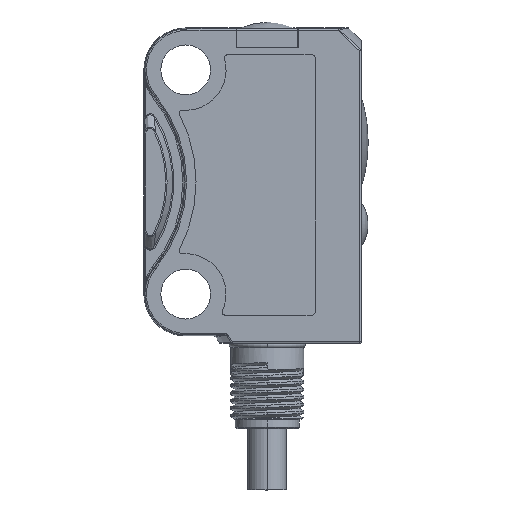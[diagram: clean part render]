
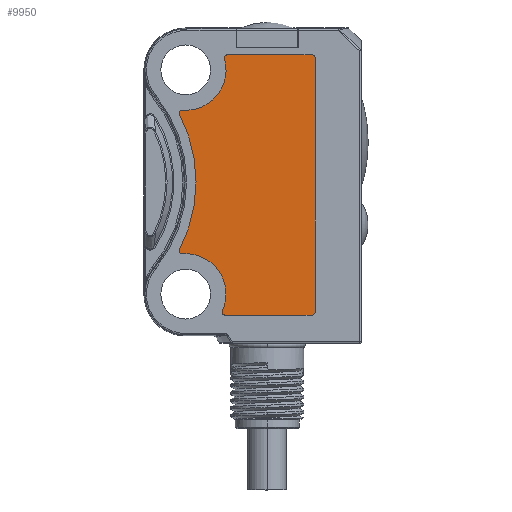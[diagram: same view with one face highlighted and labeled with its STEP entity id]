
A CAD part, left-side view. The second image highlights one B-rep face of the part: STEP entity #9950.
In plain terms, the highlighted planar face has unit normal (-1, 0, 0) as drawn and (0, 1, 0) by its records, which use the part's own axes.
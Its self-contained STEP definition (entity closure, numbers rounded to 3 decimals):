
#9755=CARTESIAN_POINT('',(57.038,14.48,19.143));
#9756=VERTEX_POINT('',#9755);
#9757=CARTESIAN_POINT('',(56.838,14.48,19.343));
#9758=VERTEX_POINT('',#9757);
#9759=CARTESIAN_POINT('',(57.038,14.48,19.343));
#9760=DIRECTION('',(0.0,1.,0.0));
#9761=DIRECTION('',(-0.707,0.0,-0.707));
#9762=AXIS2_PLACEMENT_3D('',#9759,#9760,#9761);
#9763=CIRCLE('',#9762,0.2);
#9764=EDGE_CURVE('',#9756,#9758,#9763,.T.);
#9798=CARTESIAN_POINT('',(74.038,14.48,19.143));
#9799=VERTEX_POINT('',#9798);
#9800=CARTESIAN_POINT('',(74.038,14.48,19.143));
#9801=DIRECTION('',(-1.0,0.0,0.0));
#9802=VECTOR('',#9801,17.);
#9803=LINE('',#9800,#9802);
#9804=EDGE_CURVE('',#9799,#9756,#9803,.T.);
#9828=CARTESIAN_POINT('',(56.838,14.48,25.006));
#9829=VERTEX_POINT('',#9828);
#9830=CARTESIAN_POINT('',(57.093,14.48,25.198));
#9831=VERTEX_POINT('',#9830);
#9832=CARTESIAN_POINT('',(57.038,14.48,25.006));
#9833=DIRECTION('',(0.0,1.,0.0));
#9834=DIRECTION('',(-0.602,0.0,0.799));
#9835=AXIS2_PLACEMENT_3D('',#9832,#9833,#9834);
#9836=CIRCLE('',#9835,0.2);
#9837=EDGE_CURVE('',#9829,#9831,#9836,.T.);
#9865=CARTESIAN_POINT('',(65.56,14.48,23.183));
#9866=DIRECTION('',(0.0,1.0,0.0));
#9867=DIRECTION('',(0.0,0.0,1.0));
#9868=AXIS2_PLACEMENT_3D('',#9865,#9866,#9867);
#9869=PLANE('',#9868);
#9870=ORIENTED_EDGE('',*,*,#9764,.T.);
#9871=CARTESIAN_POINT('',(56.838,14.48,19.343));
#9872=DIRECTION('',(0.0,0.0,1.0));
#9873=VECTOR('',#9872,5.663);
#9874=LINE('',#9871,#9873);
#9875=EDGE_CURVE('',#9758,#9829,#9874,.T.);
#9876=ORIENTED_EDGE('',*,*,#9875,.T.);
#9877=ORIENTED_EDGE('',*,*,#9837,.T.);
#9878=CARTESIAN_POINT('',(60.529,14.48,28.013));
#9879=VERTEX_POINT('',#9878);
#9880=CARTESIAN_POINT('',(57.838,14.48,27.793));
#9881=DIRECTION('',(0.0,-1.0,0.0));
#9882=DIRECTION('',(0.0,0.0,1.0));
#9883=AXIS2_PLACEMENT_3D('',#9880,#9881,#9882);
#9884=CIRCLE('',#9883,2.7);
#9885=EDGE_CURVE('',#9831,#9879,#9884,.T.);
#9886=ORIENTED_EDGE('',*,*,#9885,.T.);
#9887=CARTESIAN_POINT('',(60.82,14.48,28.206));
#9888=VERTEX_POINT('',#9887);
#9889=CARTESIAN_POINT('',(60.728,14.48,28.029));
#9890=DIRECTION('',(0.0,1.0,0.0));
#9891=DIRECTION('',(-0.553,0.0,0.833));
#9892=AXIS2_PLACEMENT_3D('',#9889,#9890,#9891);
#9893=CIRCLE('',#9892,0.2);
#9894=EDGE_CURVE('',#9879,#9888,#9893,.T.);
#9895=ORIENTED_EDGE('',*,*,#9894,.T.);
#9896=CARTESIAN_POINT('',(69.855,14.48,28.206));
#9897=VERTEX_POINT('',#9896);
#9898=CARTESIAN_POINT('',(65.338,14.48,36.903));
#9899=DIRECTION('',(0.0,-1.0,0.0));
#9900=DIRECTION('',(0.0,0.0,1.0));
#9901=AXIS2_PLACEMENT_3D('',#9898,#9899,#9900);
#9902=CIRCLE('',#9901,9.8);
#9903=EDGE_CURVE('',#9888,#9897,#9902,.T.);
#9904=ORIENTED_EDGE('',*,*,#9903,.T.);
#9905=CARTESIAN_POINT('',(70.147,14.48,28.013));
#9906=VERTEX_POINT('',#9905);
#9907=CARTESIAN_POINT('',(69.947,14.48,28.029));
#9908=DIRECTION('',(0.0,1.,0.0));
#9909=DIRECTION('',(0.553,0.0,0.833));
#9910=AXIS2_PLACEMENT_3D('',#9907,#9908,#9909);
#9911=CIRCLE('',#9910,0.2);
#9912=EDGE_CURVE('',#9897,#9906,#9911,.T.);
#9913=ORIENTED_EDGE('',*,*,#9912,.T.);
#9914=CARTESIAN_POINT('',(73.955,14.48,25.335));
#9915=VERTEX_POINT('',#9914);
#9916=CARTESIAN_POINT('',(72.838,14.48,27.793));
#9917=DIRECTION('',(0.0,-1.0,0.0));
#9918=DIRECTION('',(0.0,0.0,1.0));
#9919=AXIS2_PLACEMENT_3D('',#9916,#9917,#9918);
#9920=CIRCLE('',#9919,2.7);
#9921=EDGE_CURVE('',#9906,#9915,#9920,.T.);
#9922=ORIENTED_EDGE('',*,*,#9921,.T.);
#9923=CARTESIAN_POINT('',(74.238,14.48,25.153));
#9924=VERTEX_POINT('',#9923);
#9925=CARTESIAN_POINT('',(74.038,14.48,25.153));
#9926=DIRECTION('',(0.0,1.,0.0));
#9927=DIRECTION('',(0.541,0.0,0.841));
#9928=AXIS2_PLACEMENT_3D('',#9925,#9926,#9927);
#9929=CIRCLE('',#9928,0.2);
#9930=EDGE_CURVE('',#9915,#9924,#9929,.T.);
#9931=ORIENTED_EDGE('',*,*,#9930,.T.);
#9932=CARTESIAN_POINT('',(74.238,14.48,19.343));
#9933=VERTEX_POINT('',#9932);
#9934=CARTESIAN_POINT('',(74.238,14.48,25.153));
#9935=DIRECTION('',(0.0,0.0,-1.0));
#9936=VECTOR('',#9935,5.81);
#9937=LINE('',#9934,#9936);
#9938=EDGE_CURVE('',#9924,#9933,#9937,.T.);
#9939=ORIENTED_EDGE('',*,*,#9938,.T.);
#9940=CARTESIAN_POINT('',(74.038,14.48,19.343));
#9941=DIRECTION('',(0.0,1.,0.0));
#9942=DIRECTION('',(0.707,0.0,-0.707));
#9943=AXIS2_PLACEMENT_3D('',#9940,#9941,#9942);
#9944=CIRCLE('',#9943,0.2);
#9945=EDGE_CURVE('',#9933,#9799,#9944,.T.);
#9946=ORIENTED_EDGE('',*,*,#9945,.T.);
#9947=ORIENTED_EDGE('',*,*,#9804,.T.);
#9948=EDGE_LOOP('',(#9870,#9876,#9877,#9886,#9895,#9904,#9913,#9922,#9931,#9939,#9946,#9947));
#9949=FACE_OUTER_BOUND('',#9948,.T.);
#9950=ADVANCED_FACE('',(#9949),#9869,.T.);
